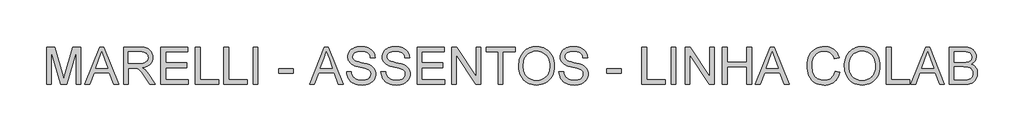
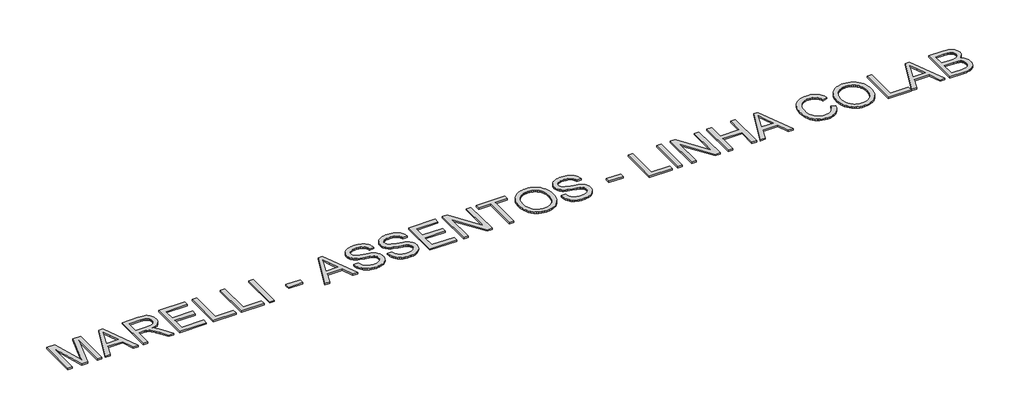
# One storey, part 67 of 67: 1 proxy.
"""IFC4 building model written with IfcOpenShell, lengths in millimetres."""

import ifcopenshell
import ifcopenshell.guid

model = None  # the IFC model being written
_history = None  # IfcOwnerHistory: only IFC2X3 demands one
_inside = {}  # id of a spatial element -> (the spatial element, [elements in it])
_under = {}  # id of a project, library or spatial element -> (it, [spatial elements below it])
_declared = {}  # id of a project -> (the project, [libraries it declares])
_typed = {}  # id of a type object -> (the type object, [elements of that type])
_made_of = {}  # id of a material, layer set ... -> (it, [elements and type objects made of it])


def new_model(schema):
    """Start an empty IFC model of exactly this schema.

    Asked for "IFC4X3", IfcOpenShell would pick the latest addendum, in which some entities
    have other attributes; the version numbers below select the first issue.
    IFC2X3 requires an IfcOwnerHistory on every rooted entity: one is made here for all.
    """
    global model, _history
    if schema == "IFC4X3":
        model = ifcopenshell.file(schema_version=(4, 3, 0, 0))
    else:
        model = ifcopenshell.file(schema=schema)
    _inside.clear()
    _under.clear()
    _declared.clear()
    _typed.clear()
    _made_of.clear()
    _history = None
    if model.schema == "IFC2X3":
        org = make("IfcOrganization", Name="unknown")
        user = make(
            "IfcPersonAndOrganization",
            ThePerson=make("IfcPerson", FamilyName="unknown"),
            TheOrganization=org,
        )
        app = make(
            "IfcApplication",
            ApplicationDeveloper=org,
            Version="unknown",
            ApplicationFullName="unknown",
            ApplicationIdentifier="unknown",
        )
        _history = make(
            "IfcOwnerHistory",
            OwningUser=user,
            OwningApplication=app,
            ChangeAction="ADDED",
            CreationDate=0,
        )
    return model


def make(cls, **values):
    """One entity of the class cls with the attributes given. An attribute that is None is left unset."""
    return model.create_entity(
        cls, **{name: value for name, value in values.items() if value is not None}
    )


def rooted(cls, **values):
    """An entity with a GlobalId (a new one), such as an element, a storey or a relation."""
    return make(cls, GlobalId=ifcopenshell.guid.new(), OwnerHistory=_history, **values)


def si_unit(unit_type, name, prefix=None):
    """IfcSIUnit, for example si_unit("LENGTHUNIT", "METRE", prefix="MILLI")."""
    return make("IfcSIUnit", UnitType=unit_type, Prefix=prefix, Name=name)


def assignment(units):
    """IfcUnitAssignment: the units of a project."""
    return None if units is None else make("IfcUnitAssignment", Units=units)


def point(xyz):
    """IfcCartesianPoint."""
    return None if xyz is None else make("IfcCartesianPoint", Coordinates=xyz)


def direction(xyz):
    """IfcDirection."""
    return None if xyz is None else make("IfcDirection", DirectionRatios=xyz)


def frame(location, z_axis=None, x_axis=None):
    """IfcAxis2Placement3D, a coordinate frame: its origin and axes. An axis left out is left unset."""
    return make(
        "IfcAxis2Placement3D",
        Location=point(location),
        Axis=direction(z_axis),
        RefDirection=direction(x_axis),
    )


def origin():
    """The frame at (0, 0, 0) with its axes left unset."""
    return frame((0.0, 0.0, 0.0))


def origin_with_axes():
    """The frame at (0, 0, 0) with the z axis (0, 0, 1) and the x axis (1, 0, 0) written out."""
    return frame((0.0, 0.0, 0.0), z_axis=(0.0, 0.0, 1.0), x_axis=(1.0, 0.0, 0.0))


def place(relative_to, where):
    """IfcLocalPlacement: puts the frame where relative to a parent placement (None: the world)."""
    return make(
        "IfcLocalPlacement", PlacementRelTo=relative_to, RelativePlacement=where
    )


def context(
    kind, dimensions, precision=None, world=None, true_north=None, identifier=None
):
    """IfcGeometricRepresentationContext, for example the 3D "Model" context."""
    return make(
        "IfcGeometricRepresentationContext",
        ContextIdentifier=identifier,
        ContextType=kind,
        CoordinateSpaceDimension=dimensions,
        Precision=precision,
        WorldCoordinateSystem=world,
        TrueNorth=true_north,
    )


def project(units=None, contexts=None):
    """IfcProject with its units and contexts."""
    return rooted(
        "IfcProject",
        Name="project",
        RepresentationContexts=contexts,
        UnitsInContext=assignment(units),
    )


def spatial(cls, under=None, at=None, **own):
    """A site, building, storey or space (cls), placed at a placement, below another one or the project."""
    s = rooted(cls, ObjectPlacement=at, **own)
    if under is not None:
        _under.setdefault(under.id(), (under, []))[1].append(s)
    return s


def polyline(points):
    """IfcPolyline through the points."""
    return make("IfcPolyline", Points=[point(p) for p in points])


def outline(outer, holes=None, kind="AREA"):
    """IfcArbitraryClosedProfileDef: a profile drawn as a closed curve; with holes, ...WithVoids."""
    if holes is None:
        return make("IfcArbitraryClosedProfileDef", ProfileType=kind, OuterCurve=outer)
    return make(
        "IfcArbitraryProfileDefWithVoids",
        ProfileType=kind,
        OuterCurve=outer,
        InnerCurves=holes,
    )


def extrude(swept, where, along, depth):
    """IfcExtrudedAreaSolid: the profile swept, set in the frame where, extruded along a direction by depth."""
    return make(
        "IfcExtrudedAreaSolid",
        SweptArea=swept,
        Position=where,
        ExtrudedDirection=direction(along),
        Depth=depth,
    )


def shape(context_of_items, identifier, shape_type, items):
    """IfcShapeRepresentation: the items that make up one representation, for example the "Body"."""
    return make(
        "IfcShapeRepresentation",
        ContextOfItems=context_of_items,
        RepresentationIdentifier=identifier,
        RepresentationType=shape_type,
        Items=items,
    )


def made_of(thing, what):
    """Note that an element or type object is made of a material, layer set ...; save() writes the relation."""
    if what is not None:
        _made_of.setdefault(what.id(), (what, []))[1].append(thing)
    return thing


def element(
    cls,
    number,
    at=None,
    inside=None,
    cuts=None,
    type_object=None,
    material=None,
    context=None,
    identifier="Body",
    shape_type=None,
    held_by="IfcProductDefinitionShape",
    body=None,
    shapes=None,
    **own,
):
    """One element of the class cls, such as IfcWall. Its Tag is "e" and its number.

    at: its placement. inside: the storey or other place that contains it. cuts: it is an
    opening in that element (IfcRelVoidsElement). A single representation is given by context,
    identifier, shape_type and body (its items); several are given by shapes. held_by: the class
    of the entity that holds the representations. save() writes the other relations.
    """
    e = rooted(cls, Tag="e%d" % number, ObjectPlacement=at, **own)
    if body is not None:
        shapes = [shape(context, identifier, shape_type, body)]
    if shapes is not None:
        e.Representation = make(held_by, Representations=shapes)
    if inside is not None:
        _inside.setdefault(inside.id(), (inside, []))[1].append(e)
    if cuts is not None:
        rooted(
            "IfcRelVoidsElement", RelatingBuildingElement=cuts, RelatedOpeningElement=e
        )
    if type_object is not None:
        _typed.setdefault(type_object.id(), (type_object, []))[1].append(e)
    return made_of(e, material)


def aggregate(whole, parts):
    """IfcRelAggregates: a whole, such as a stair, and the parts it consists of."""
    return rooted("IfcRelAggregates", RelatingObject=whole, RelatedObjects=parts)


def save(model, path):
    """Write the relations noted so far, then the file.

    IfcRelAggregates (storeys below a building ...), IfcRelContainedInSpatialStructure (elements
    in a storey), IfcRelDefinesByType, IfcRelAssociatesMaterial and IfcRelDeclares: one each for
    every whole, place, type object, material and project.
    """
    for whole, parts in _under.values():
        aggregate(whole, parts)
    for where, things in _inside.values():
        rooted(
            "IfcRelContainedInSpatialStructure",
            RelatedElements=things,
            RelatingStructure=where,
        )
    for kind, things in _typed.values():
        rooted("IfcRelDefinesByType", RelatedObjects=things, RelatingType=kind)
    for what, things in _made_of.values():
        rooted("IfcRelAssociatesMaterial", RelatedObjects=things, RelatingMaterial=what)
    for by, libraries in _declared.values():
        rooted("IfcRelDeclares", RelatingContext=by, RelatedDefinitions=libraries)
    model.write(path)


model = new_model("IFC4")

# Units and contexts
model_context = context("Model", 3, world=origin())
ifc_project = project(units=[si_unit("LENGTHUNIT", "METRE", prefix="MILLI")], contexts=[model_context])

# Site, building, storey
site = spatial("IfcSite", under=ifc_project)
building = spatial("IfcBuilding", under=site)
storey = spatial("IfcBuildingStorey", under=building, Name="Marelli - Linha COLAB - Planta Baixa", Elevation=0.0)

# Proxy
placement = place(None, origin())
element("IfcBuildingElementProxy", 1, Name="1200mm Arial", ObjectType="1200mm Arial", at=placement, inside=storey, context=model_context, shape_type="SweptSolid", body=[
    extrude(outline(polyline([(-10159.6886556, 28269.4336799), (-10159.6886556, 29474.9094017), (-9900.4054254, 29474.9094017), (-9653.7773358, 28625.2491457), (-9604.0396901, 28447.7828712), (-9550.181766, 28639.9644255), (-9307.6739548, 29474.9094017), (-9048.3907246, 29474.9094017), (-9048.3907246, 28269.4336799), (-9199.0751898, 28269.4336799), (-9199.0751898, 29324.2249365), (-9501.9156482, 28269.4336799), (-9706.1637319, 28269.4336799), (-10009.0041904, 29324.2249365), (-10009.0041904, 28269.4336799), (-10159.6886556, 28269.4336799)])), origin_with_axes(), (0.0, 0.0, 1.0), 50.0),
    extrude(outline(polyline([(-8925.0766798, 28269.4336799), (-8443.8870301, 29474.9094017), (-8315.5697902, 29474.9094017), (-7834.3801405, 28269.4336799), (-7993.599468, 28269.4336799), (-8131.6287926, 28646.144843), (-8628.1223333, 28646.144843), (-8765.8573523, 28269.4336799), (-8925.0766798, 28269.4336799)]), holes=[polyline([(-8572.7928812, 28796.8293082), (-8186.6639391, 28796.8293082), (-8295.262704, 29093.1950435), (-8379.7284101, 29324.2249365), (-8454.7763372, 29119.093936), (-8572.7928812, 28796.8293082)])]), origin_with_axes(), (0.0, 0.0, 1.0), 50.0),
    extrude(outline(polyline([(-7673.3949794, 28269.4336799), (-7673.3949794, 29474.9094017), (-7153.9456022, 29474.9094017), (-7079.3851188, 29472.8768537), (-7014.334385, 29466.7792096), (-6958.7934008, 29456.6164695), (-6912.7621662, 29442.3886334), (-6873.5643396, 29423.0012522), (-6838.5235795, 29397.3598771), (-6807.639886, 29365.4645082), (-6780.9132591, 29327.3151453), (-6759.3461771, 29284.9627306), (-6743.9411186, 29240.4582062), (-6734.6980835, 29193.8015722), (-6731.6170717, 29144.9928285), (-6736.7214344, 29083.0782887), (-6752.0345225, 29026.2405204), (-6777.5563359, 28974.4795237), (-6813.2868747, 28927.7952985), (-6835.0953792, 28906.7294558), (-6859.6859913, 28887.6777669), (-6917.2135383, 28855.616851), (-6985.8695157, 28831.6125509), (-7065.6539234, 28815.6648664), (-7015.989854, 28783.2176744), (-6980.0109949, 28751.2119408), (-6918.2803961, 28678.0034238), (-6857.8741725, 28596.1128916), (-6656.8634503, 28269.4336799), (-6831.97528, 28269.4336799), (-6988.8401628, 28519.2991311), (-7051.6008311, 28614.6541442), (-7102.1478173, 28684.6988761), (-7144.2703057, 28732.9282057), (-7181.757481, 28762.8370119), (-7217.2580936, 28780.384983), (-7253.4208937, 28791.5318075), (-7288.6639888, 28795.504933), (-7340.8296558, 28796.8293082), (-7522.7105142, 28796.8293082), (-7522.7105142, 28269.4336799), (-7673.3949794, 28269.4336799)]), holes=[polyline([(-7522.7105142, 28947.5137734), (-7185.436301, 28947.5137734), (-7088.5729717, 28952.8480624), (-7048.2806961, 28959.5159235), (-7013.4146801, 28968.8509292), (-6983.1931741, 28981.1197937), (-6956.8344292, 28996.5892316), (-6934.3384452, 29015.2592429), (-6915.7052221, 29037.1298275), (-6901.0911099, 29061.1249306), (-6890.6524583, 29086.1684974), (-6884.3892673, 29112.2605279), (-6882.301537, 29139.4010221), (-6886.2838596, 29177.9366611), (-6898.2308274, 29212.9038448), (-6918.1424403, 29244.3025731), (-6946.0186985, 29272.132846), (-6982.5033954, 29294.9231356), (-7028.2403245, 29311.2019139), (-7083.2294857, 29320.9691808), (-7147.4708791, 29324.2249365), (-7522.7105142, 29324.2249365), (-7522.7105142, 28947.5137734)])]), origin_with_axes(), (0.0, 0.0, 1.0), 50.0),
    extrude(outline(polyline([(-6467.9192576, 28269.4336799), (-6467.9192576, 29474.9094017), (-5601.4835826, 29474.9094017), (-5601.4835826, 29324.2249365), (-6317.2347924, 29324.2249365), (-6317.2347924, 28966.3493316), (-5639.1546989, 28966.3493316), (-5639.1546989, 28815.6648664), (-6317.2347924, 28815.6648664), (-6317.2347924, 28420.1181452), (-5582.6480244, 28420.1181452), (-5582.6480244, 28269.4336799), (-6467.9192576, 28269.4336799)])), origin_with_axes(), (0.0, 0.0, 1.0), 50.0),
    extrude(outline(polyline([(-5356.6213266, 28269.4336799), (-5356.6213266, 29474.9094017), (-5205.9368613, 29474.9094017), (-5205.9368613, 28420.1181452), (-4603.1990005, 28420.1181452), (-4603.1990005, 28269.4336799), (-5356.6213266, 28269.4336799)])), origin_with_axes(), (0.0, 0.0, 1.0), 50.0),
    extrude(outline(polyline([(-4433.6789771, 28269.4336799), (-4433.6789771, 29474.9094017), (-4282.9945118, 29474.9094017), (-4282.9945118, 28420.1181452), (-3680.256651, 28420.1181452), (-3680.256651, 28269.4336799), (-4433.6789771, 28269.4336799)])), origin_with_axes(), (0.0, 0.0, 1.0), 50.0),
    extrude(outline(polyline([(-3491.9010694, 28269.4336799), (-3491.9010694, 29474.9094017), (-3341.2166042, 29474.9094017), (-3341.2166042, 28269.4336799), (-3491.9010694, 28269.4336799)])), origin_with_axes(), (0.0, 0.0, 1.0), 50.0),
    extrude(outline(polyline([(-2663.1365107, 28627.3092848), (-2663.1365107, 28777.9937501), (-2192.2475569, 28777.9937501), (-2192.2475569, 28627.3092848), (-2663.1365107, 28627.3092848)])), origin_with_axes(), (0.0, 0.0, 1.0), 50.0),
    extrude(outline(polyline([(-1673.3867909, 28269.4336799), (-1192.1971412, 29474.9094017), (-1063.8799013, 29474.9094017), (-582.6902516, 28269.4336799), (-741.9095791, 28269.4336799), (-879.9389037, 28646.144843), (-1376.4324444, 28646.144843), (-1514.1674633, 28269.4336799), (-1673.3867909, 28269.4336799)]), holes=[polyline([(-1321.1029923, 28796.8293082), (-934.9740501, 28796.8293082), (-1043.5728151, 29093.1950435), (-1128.0385212, 29324.2249365), (-1203.0864482, 29119.093936), (-1321.1029923, 28796.8293082)])]), origin_with_axes(), (0.0, 0.0, 1.0), 50.0),
    extrude(outline(polyline([(-478.2117649, 28683.8159593), (-327.5272997, 28683.8159593), (-320.6295123, 28639.9552284), (-310.2368459, 28600.1963818), (-296.3493006, 28564.5394194), (-278.9668763, 28532.9843413), (-257.2066563, 28504.8965509), (-230.1857238, 28479.641452), (-197.9040787, 28457.2190444), (-160.3617211, 28437.6293281), (-118.9382084, 28421.7276289), (-75.0130982, 28410.3692723), (-28.5863904, 28403.5542583), (20.3419149, 28401.282587), (63.6232317, 28403.0024353), (104.2925862, 28408.1619803), (142.3499786, 28416.761222), (177.7954089, 28428.8001602), (209.7551572, 28443.8465338), (237.3555039, 28461.4680814), (260.5964489, 28481.6648029), (279.4779923, 28504.4366985), (294.0921046, 28528.7996836), (304.5307562, 28553.769674), (310.7939472, 28579.3466697), (312.8816775, 28605.5306707), (311.318179, 28631.6043071), (306.6276836, 28655.9672923), (298.8101912, 28678.6196261), (287.8657018, 28699.5613087), (272.0835642, 28718.9027046), (249.7531271, 28736.7541784), (220.8743905, 28753.1157301), (185.4473544, 28767.9873598), (105.8744788, 28791.6421721), (-33.9574676, 28825.5241038), (-177.9832687, 28863.5998903), (-230.5444087, 28881.9480049), (-270.1377085, 28899.8362669), (-310.3748017, 28923.8405671), (-345.1488473, 28950.5304058), (-374.4598452, 28979.9057831), (-398.3077956, 29011.966699), (-416.7846688, 29046.3820596), (-429.9824354, 29082.8207713), (-437.9010953, 29121.2828339), (-440.5406486, 29161.7682474), (-437.2756959, 29206.6406538), (-427.4808378, 29250.0231381), (-411.1560743, 29291.9157003), (-388.3014053, 29332.3183404), (-359.1743483, 29369.5847865), (-324.0324208, 29402.0687667), (-282.8756225, 29429.7702809), (-235.7039537, 29452.6893292), (-184.1085039, 29470.6511676), (-129.6803627, 29483.4810522), (-72.4195302, 29491.178983), (-12.3260062, 29493.7449599), (53.2305653, 29491.0594213), (114.8140113, 29483.0028056), (172.4243317, 29469.5751128), (226.0615266, 29450.7763428), (274.7323146, 29426.7720427), (317.4434142, 29397.7277591), (354.1948256, 29363.6434923), (384.9865486, 29324.5192421), (409.5794599, 29281.4954428), (427.7344364, 29235.7125285), (439.4514779, 29187.1704992), (444.7305846, 29135.869355), (294.0461193, 29135.869355), (283.9661527, 29183.9515317), (266.3813933, 29225.7797146), (241.2918412, 29261.3539035), (208.6974965, 29290.6740985), (167.9913537, 29313.5931468), (118.5664076, 29329.9638956), (60.4226583, 29339.7863449), (-6.4398943, 29343.0604947), (-75.4361625, 29339.8231331), (-134.3892522, 29330.1110484), (-183.2991635, 29313.9242406), (-222.1658963, 29291.2627097), (-251.7803969, 29264.021048), (-272.9336116, 29234.0938477), (-285.6255405, 29201.4811088), (-289.8561834, 29166.1828314), (-286.8579451, 29135.8141727), (-277.8632304, 29108.2782053), (-262.8720391, 29083.5749294), (-241.8843712, 29061.7043447), (-208.8485681, 29040.9925884), (-156.8300539, 29020.0601029), (-85.8288289, 28998.9068882), (4.1551071, 28977.5329442), (170.2906162, 28937.1395012), (228.7470652, 28918.8741601), (270.7959772, 28901.896406), (316.9927588, 28876.1630605), (356.6964231, 28847.2291416), (389.9069702, 28815.0946493), (416.6244001, 28779.7595836), (437.1614125, 28741.4078856), (451.8307071, 28700.2234963), (460.6322838, 28656.2064156), (463.5661427, 28609.3566435), (460.1908254, 28562.2217628), (450.0648735, 28516.4664397), (433.188287, 28472.090674), (409.5610658, 28429.0944658), (379.5970773, 28389.1424812), (343.7101887, 28353.899386), (301.9003999, 28323.3651804), (254.1677111, 28297.5398644), (201.9008766, 28277.002852), (146.4886511, 28262.3335574), (87.9310345, 28253.5319807), (26.2280269, 28250.5981218), (-50.8524482, 28253.7619069), (-121.4030178, 28263.2532624), (-185.423682, 28279.0721882), (-242.9144408, 28301.2186843), (-294.2247821, 28329.7295389), (-339.7041937, 28364.6415403), (-379.3526758, 28405.9546883), (-413.1702282, 28453.6689831), (-440.4118899, 28506.2393202), (-460.3327, 28562.1205953), (-472.9326583, 28621.3128083), (-478.2117649, 28683.8159593)])), origin_with_axes(), (0.0, 0.0, 1.0), 50.0),
    extrude(outline(polyline([(633.0861661, 28683.8159593), (783.7706313, 28683.8159593), (790.6684187, 28639.9552284), (801.0610851, 28600.1963818), (814.9486304, 28564.5394194), (832.3310547, 28532.9843413), (854.0912747, 28504.8965509), (881.1122072, 28479.641452), (913.3938523, 28457.2190444), (950.9362099, 28437.6293281), (992.3597226, 28421.7276289), (1036.2848328, 28410.3692723), (1082.7115406, 28403.5542583), (1131.639846, 28401.282587), (1174.9211627, 28403.0024353), (1215.5905173, 28408.1619803), (1253.6479097, 28416.761222), (1289.0933399, 28428.8001602), (1321.0530882, 28443.8465338), (1348.6534349, 28461.4680814), (1371.89438, 28481.6648029), (1390.7759234, 28504.4366985), (1405.3900356, 28528.7996836), (1415.8286872, 28553.769674), (1422.0918782, 28579.3466697), (1424.1796085, 28605.5306707), (1422.61611, 28631.6043071), (1417.9256146, 28655.9672923), (1410.1081222, 28678.6196261), (1399.1636329, 28699.5613087), (1383.3814953, 28718.9027046), (1361.0510582, 28736.7541784), (1332.1723215, 28753.1157301), (1296.7452854, 28767.9873598), (1217.1724098, 28791.6421721), (1077.3404635, 28825.5241038), (933.3146624, 28863.5998903), (880.7535223, 28881.9480049), (841.1602226, 28899.8362669), (800.9231293, 28923.8405671), (766.1490838, 28950.5304058), (736.8380858, 28979.9057831), (712.9901355, 29011.966699), (694.5132622, 29046.3820596), (681.3154957, 29082.8207713), (673.3968357, 29121.2828339), (670.7572824, 29161.7682474), (674.0222351, 29206.6406538), (683.8170932, 29250.0231381), (700.1418568, 29291.9157003), (722.9965257, 29332.3183404), (752.1235827, 29369.5847865), (787.2655103, 29402.0687667), (828.4223085, 29429.7702809), (875.5939773, 29452.6893292), (927.1894271, 29470.6511676), (981.6175683, 29483.4810522), (1038.8784009, 29491.178983), (1098.9719248, 29493.7449599), (1164.5284963, 29491.0594213), (1226.1119423, 29483.0028056), (1283.7222628, 29469.5751128), (1337.3594577, 29450.7763428), (1386.0302456, 29426.7720427), (1428.7413453, 29397.7277591), (1465.4927566, 29363.6434923), (1496.2844796, 29324.5192421), (1520.877391, 29281.4954428), (1539.0323674, 29235.7125285), (1550.749409, 29187.1704992), (1556.0285156, 29135.869355), (1405.3440504, 29135.869355), (1395.2640837, 29183.9515317), (1377.6793243, 29225.7797146), (1352.5897723, 29261.3539035), (1319.9954275, 29290.6740985), (1279.2892847, 29313.5931468), (1229.8643387, 29329.9638956), (1171.7205893, 29339.7863449), (1104.8580367, 29343.0604947), (1035.8617685, 29339.8231331), (976.9086788, 29330.1110484), (927.9987675, 29313.9242406), (889.1320347, 29291.2627097), (859.5175341, 29264.021048), (838.3643194, 29234.0938477), (825.6723906, 29201.4811088), (821.4417476, 29166.1828314), (824.4399859, 29135.8141727), (833.4347007, 29108.2782053), (848.425892, 29083.5749294), (869.4135598, 29061.7043447), (902.449363, 29040.9925884), (954.4678771, 29020.0601029), (1025.4691022, 28998.9068882), (1115.4530382, 28977.5329442), (1281.5885472, 28937.1395012), (1340.0449962, 28918.8741601), (1382.0939083, 28901.896406), (1428.2906898, 28876.1630605), (1467.9943542, 28847.2291416), (1501.2049013, 28815.0946493), (1527.9223312, 28779.7595836), (1548.4593435, 28741.4078856), (1563.1286381, 28700.2234963), (1571.9302148, 28656.2064156), (1574.8640738, 28609.3566435), (1571.4887564, 28562.2217628), (1561.3628045, 28516.4664397), (1544.486218, 28472.090674), (1520.8589969, 28429.0944658), (1490.8950084, 28389.1424812), (1455.0081197, 28353.899386), (1413.198331, 28323.3651804), (1365.4656421, 28297.5398644), (1313.1988076, 28277.002852), (1257.7865821, 28262.3335574), (1199.2289655, 28253.5319807), (1137.5259579, 28250.5981218), (1060.4454828, 28253.7619069), (989.8949132, 28263.2532624), (925.874249, 28279.0721882), (868.3834902, 28301.2186843), (817.0731489, 28329.7295389), (771.5937373, 28364.6415403), (731.9452553, 28405.9546883), (698.1277028, 28453.6689831), (670.8860411, 28506.2393202), (650.9652311, 28562.1205953), (638.3652727, 28621.3128083), (633.0861661, 28683.8159593)])), origin_with_axes(), (0.0, 0.0, 1.0), 50.0),
    extrude(outline(polyline([(1800.8907716, 28269.4336799), (1800.8907716, 29474.9094017), (2667.3264466, 29474.9094017), (2667.3264466, 29324.2249365), (1951.5752368, 29324.2249365), (1951.5752368, 28966.3493316), (2629.6553303, 28966.3493316), (2629.6553303, 28815.6648664), (1951.5752368, 28815.6648664), (1951.5752368, 28420.1181452), (2686.1620048, 28420.1181452), (2686.1620048, 28269.4336799), (1800.8907716, 28269.4336799)])), origin_with_axes(), (0.0, 0.0, 1.0), 50.0),
    extrude(outline(polyline([(2912.1887026, 28269.4336799), (2912.1887026, 29474.9094017), (3073.4681693, 29474.9094017), (3703.282145, 28519.8877422), (3703.282145, 29474.9094017), (3853.9666103, 29474.9094017), (3853.9666103, 28269.4336799), (3692.6871436, 28269.4336799), (3062.8731678, 29224.749645), (3062.8731678, 28269.4336799), (2912.1887026, 28269.4336799)])), origin_with_axes(), (0.0, 0.0, 1.0), 50.0),
    extrude(outline(polyline([(4419.0333549, 28269.4336799), (4419.0333549, 29324.2249365), (4023.4866336, 29324.2249365), (4023.4866336, 29474.9094017), (4965.2645413, 29474.9094017), (4965.2645413, 29324.2249365), (4569.7178201, 29324.2249365), (4569.7178201, 28269.4336799), (4419.0333549, 28269.4336799)])), origin_with_axes(), (0.0, 0.0, 1.0), 50.0),
    extrude(outline(polyline([(5078.2778902, 28856.2790386), (5080.7886848, 28929.0047106), (5088.3210687, 28997.6744835), (5100.8750418, 29062.2883574), (5118.4506041, 29122.8463323), (5141.0477556, 29179.3484083), (5168.6664964, 29231.7945852), (5201.3068265, 29280.1848632), (5238.9687457, 29324.5192421), (5280.599192, 29364.1815197), (5325.1451031, 29398.5554936), (5372.606479, 29427.6411639), (5422.9833197, 29451.4385304), (5476.2756252, 29469.9475933), (5532.4833956, 29483.1683525), (5591.6066307, 29491.100808), (5653.6453307, 29493.7449599), (5734.7449165, 29488.7785529), (5811.7610122, 29473.8793321), (5884.6936177, 29449.0472975), (5953.5427331, 29414.2824489), (6016.3769779, 29370.6332502), (6071.2649716, 29319.148165), (6118.2067142, 29259.8271932), (6157.2022057, 29192.670335), (6187.8467759, 29119.2043006), (6209.7357546, 29040.9558002), (6222.8691418, 28957.9248339), (6227.2469376, 28870.1114017), (6222.6392156, 28781.1391411), (6208.8160496, 28696.9861347), (6185.7774396, 28617.6523825), (6153.5233857, 28543.1378843), (6112.817243, 28475.410809), (6064.4223665, 28416.4393252), (6008.3387563, 28366.2234329), (5944.5664125, 28324.763132), (5875.6161295, 28292.31594), (5803.9987021, 28269.1393743), (5729.7141302, 28255.2334349), (5652.7624139, 28250.5981218), (5570.2464824, 28255.7208786), (5492.2187112, 28271.0891489), (5418.6791004, 28296.7029328), (5349.6276499, 28332.5622303), (5286.8669815, 28377.2782868), (5232.199717, 28429.4623478), (5185.6258564, 28489.1144134), (5147.1453997, 28556.2344834), (5117.0158643, 28628.1278223), (5095.4947676, 28702.0996945), (5082.5821096, 28778.1500999), (5078.2778902, 28856.2790386)]), holes=[polyline([(5228.9623554, 28854.8075107), (5230.8454514, 28803.4557827), (5236.4947393, 28754.9091549), (5245.9102191, 28709.1676273), (5259.0918908, 28666.2311999), (5276.0397545, 28626.0998728), (5296.7538101, 28588.7736458), (5321.2340576, 28554.2525191), (5349.4804971, 28522.5364926), (5380.5688249, 28494.1176085), (5413.5747377, 28469.4879089), (5448.4982353, 28448.6473939), (5485.3393179, 28431.5960634), (5524.0979853, 28418.3339175), (5564.7742377, 28408.8609561), (5607.3680749, 28403.1771793), (5651.8794971, 28401.282587), (5697.2048582, 28403.1955734), (5740.4746786, 28408.9345325), (5781.6889584, 28418.4994644), (5820.8476975, 28431.890369), (5857.950896, 28449.1072464), (5892.9985538, 28470.1500965), (5925.990671, 28495.0189194), (5956.9272475, 28523.713715), (5984.9667533, 28555.9263822), (6009.2676584, 28591.3488198), (6029.8299626, 28629.9810278), (6046.6536661, 28671.8230063), (6059.7387688, 28716.8747551), (6069.0852708, 28765.1362743), (6074.6931719, 28816.607564), (6076.5624723, 28871.288624), (6073.361899, 28940.248104), (6063.7601789, 29004.6826355), (6047.7573121, 29064.5922184), (6025.3532986, 29119.9768528), (5996.7964587, 29170.1099717), (5962.3351128, 29214.2650081), (5921.9692609, 29252.4419622), (5875.698903, 29284.6408338), (5824.9587788, 29310.1994354), (5771.1836281, 29328.4555794), (5714.373451, 29339.4092659), (5654.5282475, 29343.0604947), (5611.7297758, 29341.3015589), (5570.4488175, 29336.0247515), (5530.6853723, 29327.2300726), (5492.4394404, 29314.917522), (5455.7110217, 29299.0870999), (5420.5001162, 29279.7388062), (5386.806724, 29256.872641), (5354.630845, 29230.4886041), (5325.1772928, 29199.993486), (5299.6508808, 29164.7940768), (5278.0516092, 29124.8903767), (5260.3794778, 29080.2823855), (5246.6344868, 29030.9701033), (5236.816636, 28976.9535301), (5230.9259256, 28918.2326659), (5228.9623554, 28854.8075107)])]), origin_with_axes(), (0.0, 0.0, 1.0), 50.0),
    extrude(outline(polyline([(6377.9314028, 28683.8159593), (6528.615868, 28683.8159593), (6535.5136554, 28639.9552284), (6545.9063218, 28600.1963818), (6559.7938671, 28564.5394194), (6577.1762914, 28532.9843413), (6598.9365114, 28504.8965509), (6625.9574439, 28479.641452), (6658.239089, 28457.2190444), (6695.7814466, 28437.6293281), (6737.2049593, 28421.7276289), (6781.1300695, 28410.3692723), (6827.5567773, 28403.5542583), (6876.4850826, 28401.282587), (6919.7663994, 28403.0024353), (6960.4357539, 28408.1619803), (6998.4931463, 28416.761222), (7033.9385766, 28428.8001602), (7065.8983249, 28443.8465338), (7093.4986716, 28461.4680814), (7116.7396166, 28481.6648029), (7135.62116, 28504.4366985), (7150.2352723, 28528.7996836), (7160.6739239, 28553.769674), (7166.9371149, 28579.3466697), (7169.0248452, 28605.5306707), (7167.4613467, 28631.6043071), (7162.7708513, 28655.9672923), (7154.9533589, 28678.6196261), (7144.0088695, 28699.5613087), (7128.2267319, 28718.9027046), (7105.8962948, 28736.7541784), (7077.0175582, 28753.1157301), (7041.5905221, 28767.9873598), (6962.0176465, 28791.6421721), (6822.1857002, 28825.5241038), (6678.159899, 28863.5998903), (6625.598759, 28881.9480049), (6586.0054593, 28899.8362669), (6545.768366, 28923.8405671), (6510.9943204, 28950.5304058), (6481.6833225, 28979.9057831), (6457.8353721, 29011.966699), (6439.3584989, 29046.3820596), (6426.1607323, 29082.8207713), (6418.2420724, 29121.2828339), (6415.6025191, 29161.7682474), (6418.8674718, 29206.6406538), (6428.6623299, 29250.0231381), (6444.9870934, 29291.9157003), (6467.8417624, 29332.3183404), (6496.9688194, 29369.5847865), (6532.110747, 29402.0687667), (6573.2675452, 29429.7702809), (6620.439214, 29452.6893292), (6672.0346638, 29470.6511676), (6726.462805, 29483.4810522), (6783.7236376, 29491.178983), (6843.8171615, 29493.7449599), (6909.373733, 29491.0594213), (6970.957179, 29483.0028056), (7028.5674994, 29469.5751128), (7082.2046943, 29450.7763428), (7130.8754823, 29426.7720427), (7173.5865819, 29397.7277591), (7210.3379933, 29363.6434923), (7241.1297163, 29324.5192421), (7265.7226276, 29281.4954428), (7283.8776041, 29235.7125285), (7295.5946456, 29187.1704992), (7300.8737523, 29135.869355), (7150.1892871, 29135.869355), (7140.1093204, 29183.9515317), (7122.524561, 29225.7797146), (7097.4350089, 29261.3539035), (7064.8406642, 29290.6740985), (7024.1345214, 29313.5931468), (6974.7095754, 29329.9638956), (6916.565826, 29339.7863449), (6849.7032734, 29343.0604947), (6780.7070052, 29339.8231331), (6721.7539155, 29330.1110484), (6672.8440042, 29313.9242406), (6633.9772714, 29291.2627097), (6604.3627708, 29264.021048), (6583.2095561, 29234.0938477), (6570.5176273, 29201.4811088), (6566.2869843, 29166.1828314), (6569.2852226, 29135.8141727), (6578.2799374, 29108.2782053), (6593.2711287, 29083.5749294), (6614.2587965, 29061.7043447), (6647.2945996, 29040.9925884), (6699.3131138, 29020.0601029), (6770.3143388, 28998.9068882), (6860.2982749, 28977.5329442), (7026.4337839, 28937.1395012), (7084.8902329, 28918.8741601), (7126.939145, 28901.896406), (7173.1359265, 28876.1630605), (7212.8395908, 28847.2291416), (7246.0501379, 28815.0946493), (7272.7675678, 28779.7595836), (7293.3045802, 28741.4078856), (7307.9738748, 28700.2234963), (7316.7754515, 28656.2064156), (7319.7093104, 28609.3566435), (7316.3339931, 28562.2217628), (7306.2080412, 28516.4664397), (7289.3314547, 28472.090674), (7265.7042335, 28429.0944658), (7235.740245, 28389.1424812), (7199.8533564, 28353.899386), (7158.0435677, 28323.3651804), (7110.3108788, 28297.5398644), (7058.0440443, 28277.002852), (7002.6318188, 28262.3335574), (6944.0742022, 28253.5319807), (6882.3711946, 28250.5981218), (6805.2907195, 28253.7619069), (6734.7401499, 28263.2532624), (6670.7194857, 28279.0721882), (6613.2287269, 28301.2186843), (6561.9183856, 28329.7295389), (6516.438974, 28364.6415403), (6476.7904919, 28405.9546883), (6442.9729395, 28453.6689831), (6415.7312778, 28506.2393202), (6395.8104677, 28562.1205953), (6383.2105094, 28621.3128083), (6377.9314028, 28683.8159593)])), origin_with_axes(), (0.0, 0.0, 1.0), 50.0),
    extrude(outline(polyline([(7922.4471713, 28627.3092848), (7922.4471713, 28777.9937501), (8393.3361252, 28777.9937501), (8393.3361252, 28627.3092848), (7922.4471713, 28627.3092848)])), origin_with_axes(), (0.0, 0.0, 1.0), 50.0),
    extrude(outline(polyline([(9052.5806605, 28269.4336799), (9052.5806605, 29474.9094017), (9203.2651257, 29474.9094017), (9203.2651257, 28420.1181452), (9806.0029866, 28420.1181452), (9806.0029866, 28269.4336799), (9052.5806605, 28269.4336799)])), origin_with_axes(), (0.0, 0.0, 1.0), 50.0),
    extrude(outline(polyline([(9994.3585682, 28269.4336799), (9994.3585682, 29474.9094017), (10145.0430334, 29474.9094017), (10145.0430334, 28269.4336799), (9994.3585682, 28269.4336799)])), origin_with_axes(), (0.0, 0.0, 1.0), 50.0),
    extrude(outline(polyline([(10446.4119638, 28269.4336799), (10446.4119638, 29474.9094017), (10607.6914305, 29474.9094017), (11237.5054063, 28519.8877422), (11237.5054063, 29474.9094017), (11388.1898715, 29474.9094017), (11388.1898715, 28269.4336799), (11226.9104048, 28269.4336799), (10597.0964291, 29224.749645), (10597.0964291, 28269.4336799), (10446.4119638, 28269.4336799)])), origin_with_axes(), (0.0, 0.0, 1.0), 50.0),
    extrude(outline(polyline([(11651.8876856, 28269.4336799), (11651.8876856, 29474.9094017), (11802.5721509, 29474.9094017), (11802.5721509, 28985.1848897), (12442.9811281, 28985.1848897), (12442.9811281, 29474.9094017), (12593.6655933, 29474.9094017), (12593.6655933, 28269.4336799), (12442.9811281, 28269.4336799), (12442.9811281, 28834.5004245), (11802.5721509, 28834.5004245), (11802.5721509, 28269.4336799), (11651.8876856, 28269.4336799)])), origin_with_axes(), (0.0, 0.0, 1.0), 50.0),
    extrude(outline(polyline([(12716.9796381, 28269.4336799), (13198.1692878, 29474.9094017), (13326.4865277, 29474.9094017), (13807.6761774, 28269.4336799), (13648.4568499, 28269.4336799), (13510.4275253, 28646.144843), (13013.9339846, 28646.144843), (12876.1989656, 28269.4336799), (12716.9796381, 28269.4336799)]), holes=[polyline([(13069.2634367, 28796.8293082), (13455.3923788, 28796.8293082), (13346.7936138, 29093.1950435), (13262.3279077, 29324.2249365), (13187.2799807, 29119.093936), (13069.2634367, 28796.8293082)])]), origin_with_axes(), (0.0, 0.0, 1.0), 50.0),
    extrude(outline(polyline([(15287.1504092, 28697.9426279), (15437.8348744, 28659.0942892), (15424.1634598, 28610.7614928), (15408.0180387, 28565.385548), (15389.3986112, 28522.9664547), (15368.3051773, 28483.5042129), (15344.737737, 28446.9988227), (15318.6962903, 28413.450284), (15290.1808371, 28382.8585968), (15259.1913775, 28355.2237612), (15226.0636039, 28330.702127), (15191.1332084, 28309.450044), (15154.4001912, 28291.4675122), (15115.8645522, 28276.7545316), (15075.5262914, 28265.3111023), (15033.3854089, 28257.1372242), (14989.4419046, 28252.2328974), (14943.6957785, 28250.5981218), (14851.8080531, 28255.5461346), (14768.9150426, 28270.3901731), (14695.0167468, 28295.1302373), (14661.4406169, 28311.211279), (14630.1131658, 28329.7663271), (14573.3121857, 28373.7834079), (14523.7216928, 28426.6664447), (14481.3416869, 28488.4154376), (14446.1721682, 28559.0303865), (14418.5534274, 28635.457871), (14398.8257554, 28714.6444705), (14386.9891522, 28796.5901849), (14383.0436178, 28881.2950143), (14387.504187, 28972.1802612), (14400.8858946, 29057.0690316), (14423.1887405, 29135.9613255), (14454.4127249, 29208.8571428), (14493.8588718, 29274.5516701), (14540.8282056, 29331.8400938), (14595.3207261, 29380.7224139), (14657.3364334, 29421.1986304), (14724.7692031, 29452.9376496), (14795.5129108, 29475.6083775), (14869.5675564, 29489.2108143), (14946.93314, 29493.7449599), (15033.1186945, 29487.8772421), (15073.5282324, 29480.5425948), (15112.1489441, 29470.2740886), (15148.9808296, 29457.0717235), (15184.0238889, 29440.9354995), (15217.278122, 29421.8654165), (15248.7435289, 29399.8614747), (15278.1533951, 29375.1949869), (15305.2410063, 29348.1372662), (15330.0063623, 29318.6883125), (15352.4494633, 29286.8481258), (15372.5703092, 29252.6167061), (15390.3689, 29215.9940535), (15418.9993162, 29135.5750494), (15268.314851, 29099.6697666), (15244.5864623, 29158.926359), (15216.0756077, 29209.5561186), (15182.7822871, 29251.5590454), (15144.7065006, 29284.9351394), (15101.627519, 29310.3649823), (15053.324613, 29328.5291558), (14999.7977827, 29339.42766), (14941.0470281, 29343.0604947), (14873.4487115, 29339.0321868), (14811.6261422, 29326.9472633), (14755.5793202, 29306.805724), (14705.3082456, 29278.6075691), (14661.4475147, 29243.6219914), (14624.6317241, 29203.1181837), (14594.8608736, 29157.0961461), (14572.1349633, 29105.5558786), (14555.3319532, 29050.8334318), (14543.3298031, 28995.2648564), (14536.1285131, 28938.8501525), (14533.7280831, 28881.5893199), (14536.5699715, 28809.6316016), (14545.0956367, 28742.3827729), (14559.3050788, 28679.8428338), (14579.1982977, 28622.0117841), (14605.0971901, 28570.0392552), (14637.3236529, 28525.0748784), (14675.877686, 28487.1186535), (14720.7592894, 28456.1705807), (14769.7887623, 28432.1570834), (14820.7864039, 28415.0045854), (14873.7522141, 28404.7130866), (14928.6861931, 28401.282587), (14994.1967794, 28405.9546883), (15054.4650472, 28419.9709924), (15109.4909967, 28443.3314991), (15159.2746276, 28476.0362084), (15202.6387178, 28517.9379677), (15238.4060448, 28568.889624), (15266.5766086, 28628.8911774), (15287.1504092, 28697.9426279)])), origin_with_axes(), (0.0, 0.0, 1.0), 50.0),
    extrude(outline(polyline([(15588.5193396, 28856.2790386), (15591.0301342, 28929.0047106), (15598.5625181, 28997.6744835), (15611.1164912, 29062.2883574), (15628.6920535, 29122.8463323), (15651.289205, 29179.3484083), (15678.9079458, 29231.7945852), (15711.5482759, 29280.1848632), (15749.2101951, 29324.5192421), (15790.8406414, 29364.1815197), (15835.3865525, 29398.5554936), (15882.8479284, 29427.6411639), (15933.2247691, 29451.4385304), (15986.5170746, 29469.9475933), (16042.724845, 29483.1683525), (16101.8480801, 29491.100808), (16163.8867801, 29493.7449599), (16244.9863659, 29488.7785529), (16322.0024616, 29473.8793321), (16394.9350671, 29449.0472975), (16463.7841825, 29414.2824489), (16526.6184273, 29370.6332502), (16581.506421, 29319.148165), (16628.4481636, 29259.8271932), (16667.4436551, 29192.670335), (16698.0882253, 29119.2043006), (16719.977204, 29040.9558002), (16733.1105912, 28957.9248339), (16737.488387, 28870.1114017), (16732.880665, 28781.1391411), (16719.057499, 28696.9861347), (16696.0188891, 28617.6523825), (16663.7648351, 28543.1378843), (16623.0586924, 28475.410809), (16574.6638159, 28416.4393252), (16518.5802057, 28366.2234329), (16454.8078619, 28324.763132), (16385.8575789, 28292.31594), (16314.2401515, 28269.1393743), (16239.9555796, 28255.2334349), (16163.0038633, 28250.5981218), (16080.4879318, 28255.7208786), (16002.4601606, 28271.0891489), (15928.9205498, 28296.7029328), (15859.8690993, 28332.5622303), (15797.1084309, 28377.2782868), (15742.4411664, 28429.4623478), (15695.8673058, 28489.1144134), (15657.3868491, 28556.2344834), (15627.2573137, 28628.1278223), (15605.736217, 28702.0996945), (15592.823559, 28778.1500999), (15588.5193396, 28856.2790386)]), holes=[polyline([(15739.2038048, 28854.8075107), (15741.0869008, 28803.4557827), (15746.7361887, 28754.9091549), (15756.1516685, 28709.1676273), (15769.3333403, 28666.2311999), (15786.2812039, 28626.0998728), (15806.9952595, 28588.7736458), (15831.475507, 28554.2525191), (15859.7219465, 28522.5364926), (15890.8102743, 28494.1176085), (15923.8161871, 28469.4879089), (15958.7396847, 28448.6473939), (15995.5807673, 28431.5960634), (16034.3394347, 28418.3339175), (16075.0156871, 28408.8609561), (16117.6095243, 28403.1771793), (16162.1209465, 28401.282587), (16207.4463076, 28403.1955734), (16250.716128, 28408.9345325), (16291.9304078, 28418.4994644), (16331.0891469, 28431.890369), (16368.1923454, 28449.1072464), (16403.2400032, 28470.1500965), (16436.2321204, 28495.0189194), (16467.1686969, 28523.713715), (16495.2082027, 28555.9263822), (16519.5091078, 28591.3488198), (16540.071412, 28629.9810278), (16556.8951155, 28671.8230063), (16569.9802182, 28716.8747551), (16579.3267202, 28765.1362743), (16584.9346213, 28816.607564), (16586.8039217, 28871.288624), (16583.6033484, 28940.248104), (16574.0016283, 29004.6826355), (16557.9987615, 29064.5922184), (16535.594748, 29119.9768528), (16507.0379081, 29170.1099717), (16472.5765622, 29214.2650081), (16432.2107103, 29252.4419622), (16385.9403524, 29284.6408338), (16335.2002282, 29310.1994354), (16281.4250775, 29328.4555794), (16224.6149004, 29339.4092659), (16164.7696969, 29343.0604947), (16121.9712253, 29341.3015589), (16080.6902669, 29336.0247515), (16040.9268217, 29327.2300726), (16002.6808898, 29314.917522), (15965.9524711, 29299.0870999), (15930.7415656, 29279.7388062), (15897.0481734, 29256.872641), (15864.8722944, 29230.4886041), (15835.4187422, 29199.993486), (15809.8923302, 29164.7940768), (15788.2930586, 29124.8903767), (15770.6209272, 29080.2823855), (15756.8759362, 29030.9701033), (15747.0580854, 28976.9535301), (15741.167375, 28918.2326659), (15739.2038048, 28854.8075107)])]), origin_with_axes(), (0.0, 0.0, 1.0), 50.0),
    extrude(outline(polyline([(16944.6795266, 28269.4336799), (16944.6795266, 29474.9094017), (17095.3639919, 29474.9094017), (17095.3639919, 28420.1181452), (17698.1018528, 28420.1181452), (17698.1018528, 28269.4336799), (16944.6795266, 28269.4336799)])), origin_with_axes(), (0.0, 0.0, 1.0), 50.0),
    extrude(outline(polyline([(17727.2381068, 28269.4336799), (18208.4277565, 29474.9094017), (18336.7449964, 29474.9094017), (18817.9346461, 28269.4336799), (18658.7153186, 28269.4336799), (18520.685994, 28646.144843), (18024.1924533, 28646.144843), (17886.4574343, 28269.4336799), (17727.2381068, 28269.4336799)]), holes=[polyline([(18079.5219054, 28796.8293082), (18465.6508475, 28796.8293082), (18357.0520825, 29093.1950435), (18272.5863764, 29324.2249365), (18197.5384494, 29119.093936), (18079.5219054, 28796.8293082)])]), origin_with_axes(), (0.0, 0.0, 1.0), 50.0),
    extrude(outline(polyline([(18978.9198072, 28269.4336799), (18978.9198072, 29474.9094017), (19438.9194539, 29474.9094017), (19505.6440508, 29472.6929127), (19565.4340721, 29466.0434456), (19618.2895177, 29454.9610005), (19664.2103878, 29439.4455774), (19704.3647076, 29419.3316293), (19739.9205024, 29394.4536094), (19770.8777723, 29364.8115176), (19797.2365172, 29330.405354), (19818.2885644, 29293.1756961), (19833.325741, 29255.0631214), (19842.3480469, 29216.0676299), (19845.3554822, 29176.1892216), (19842.8262935, 29139.3550369), (19835.2387273, 29103.606104), (19822.5927838, 29068.942423), (19804.8884627, 29035.3639939), (19782.070582, 29003.9192804), (19754.0839592, 28975.6567461), (19720.9285944, 28950.5763911), (19682.6044875, 28928.6782153), (19728.0838992, 28909.2908341), (19767.9898986, 28884.0909175), (19802.3224858, 28853.0784653), (19831.0816608, 28816.2534776), (19853.8075711, 28774.7379944), (19870.0403641, 28729.6540559), (19879.7800399, 28681.001662), (19883.0265985, 28628.7808128), (19880.8101095, 28585.9869397), (19874.1606424, 28544.7197769), (19863.0781973, 28504.9793244), (19847.5627742, 28466.7655821), (19828.7732013, 28431.4673047), (19807.8683069, 28400.4732466), (19784.8480911, 28373.7834079), (19759.7125537, 28351.3977885), (19731.8730837, 28332.3966834), (19700.7410699, 28315.8603877), (19666.3165122, 28301.7889014), (19628.5994107, 28290.1822245), (19587.001154, 28281.1047362), (19540.9331312, 28274.6208161), (19435.3877868, 28269.4336799), (18978.9198072, 28269.4336799)]), holes=[polyline([(19129.6042724, 28985.1848897), (19404.7800048, 28985.1848897), (19501.0179347, 28988.4222513), (19565.4708603, 28998.134336), (19595.5728045, 29007.9108), (19621.7200173, 29020.4647731), (19643.9124987, 29035.7962552), (19662.1502486, 29053.9052464), (19676.3780848, 29074.662988), (19686.5408249, 29097.9407213), (19692.638469, 29123.7384462), (19694.671017, 29152.0561628), (19692.7764247, 29179.1690658), (19687.0926479, 29204.5897117), (19677.6196865, 29228.3181004), (19664.3575406, 29250.3542319), (19647.5637275, 29269.8795688), (19627.4957647, 29286.0755736), (19604.1536521, 29298.9422464), (19577.5373897, 29308.4795871), (19544.2440692, 29315.3681775), (19500.8707819, 29320.2885992), (19383.8843075, 29324.2249365), (19129.6042724, 29324.2249365), (19129.6042724, 28985.1848897)]), polyline([(19129.6042724, 28420.1181452), (19438.6251483, 28420.1181452), (19506.3154355, 28421.5896731), (19550.4612749, 28426.0042571), (19602.3694244, 28439.0640679), (19645.080524, 28458.819331), (19679.8085844, 28487.1094565), (19707.767616, 28525.7738542), (19718.5189673, 28548.5641438), (19726.198504, 28573.0834788), (19730.806226, 28599.3318591), (19732.3421333, 28627.3092848), (19730.5395115, 28659.9036296), (19725.1316462, 28690.2906824), (19716.1185373, 28718.4704432), (19703.5001849, 28744.4429121), (19686.8443275, 28767.463128), (19665.718704, 28786.7861297), (19640.1233142, 28802.4119175), (19610.0581581, 28814.3404912), (19574.1988606, 28823.160462), (19531.2210465, 28829.4604412), (19423.9098685, 28834.5004245), (19129.6042724, 28834.5004245), (19129.6042724, 28420.1181452)])]), origin_with_axes(), (0.0, 0.0, 1.0), 50.0),
])

save(model, "model.ifc")
